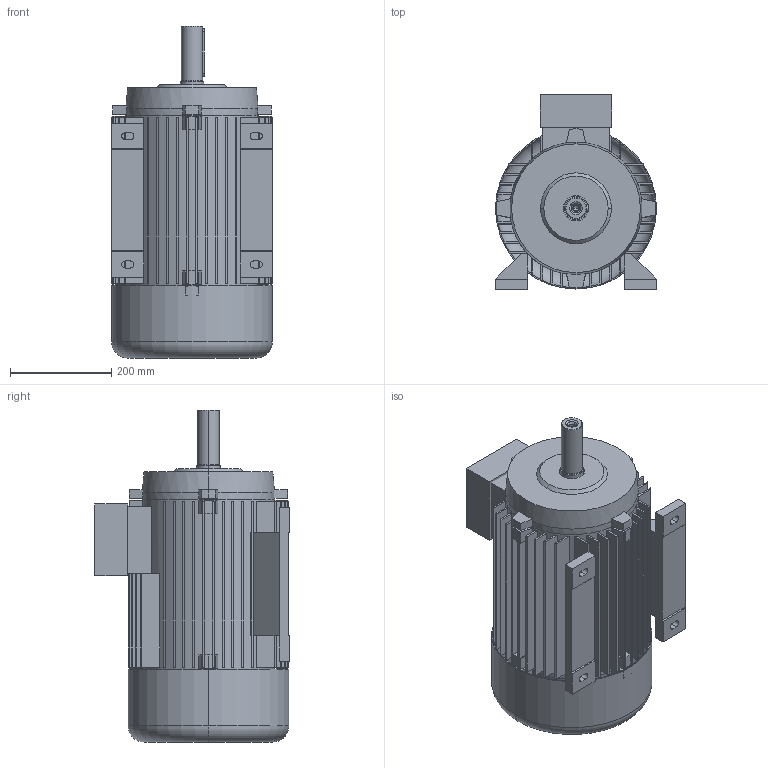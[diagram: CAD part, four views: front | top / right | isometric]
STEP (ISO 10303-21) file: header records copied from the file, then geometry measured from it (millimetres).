
FILE_DESCRIPTION (( 'STEP AP203' ), '1' );
FILE_NAME ('5AZ 160L B3 STANDK.STEP', '2017-11-10T11:10:25', ( '' ), ( '' ), 'SwSTEP 2.0', 'SolidWorks 2017', '' );
FILE_SCHEMA (( 'CONFIG_CONTROL_DESIGN' ));
Length unit declared in the file: millimetre
Products named in the file (1): 5AZ 160L B3 STANDK
Bounding box: 318 x 385 x 657 mm (x, y, z)
Volume: 11549543.9 mm3; surface area: 2455779.6 mm2
Topology: 7 solids, 7 shells, 453 faces, 1174 edges, 773 vertices
Faces by surface type: plane 308, cylinder 119, cone 22, torus 4
Entity records: 14101 total; most frequent: CARTESIAN_POINT 2535, DIRECTION 2486, ORIENTED_EDGE 2344, EDGE_CURVE 1172, AXIS2_PLACEMENT_3D 880, VERTEX_POINT 773, VECTOR 726, LINE 726
